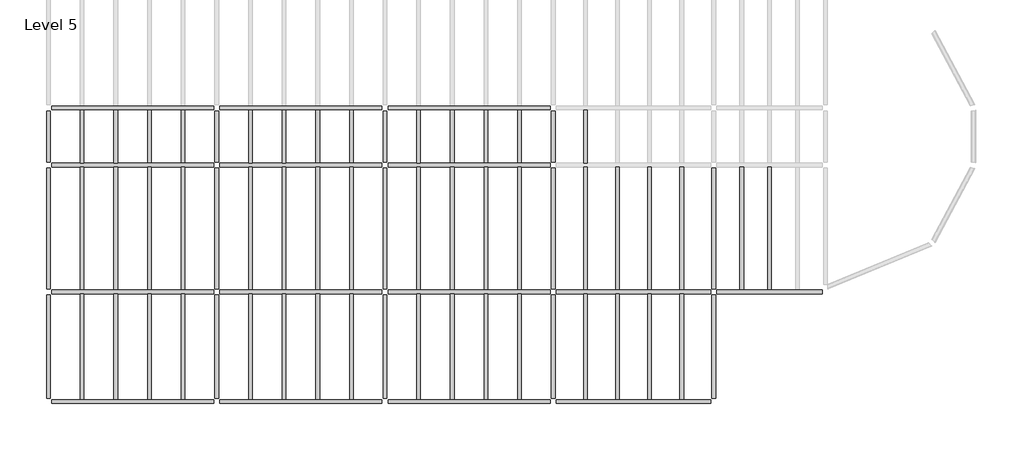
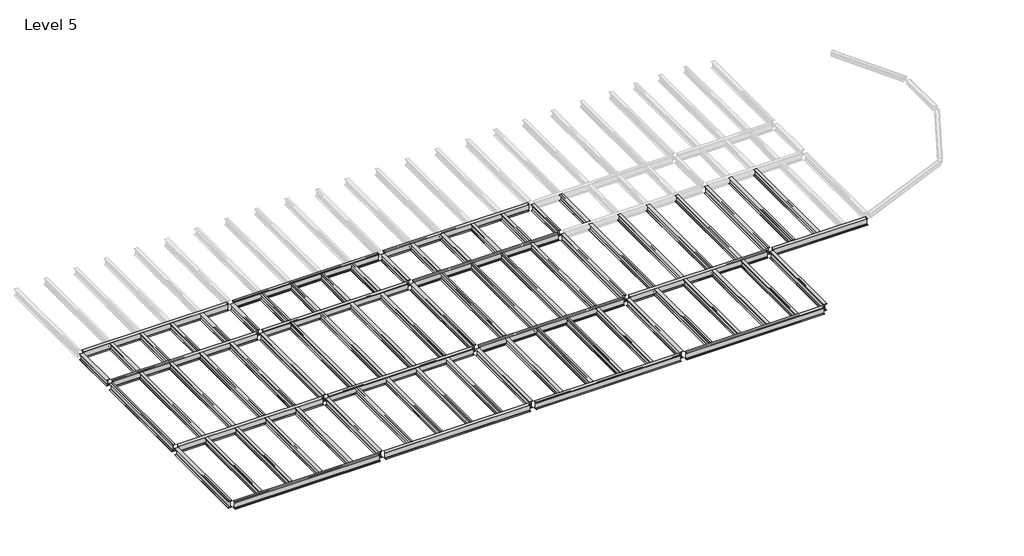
# One storey, part 1 of 2: 76 beams.
"""IFC4 building model written with IfcOpenShell, lengths in millimetres."""

import ifcopenshell
import ifcopenshell.guid

model = None  # the IFC model being written
_history = None  # IfcOwnerHistory: only IFC2X3 demands one
_inside = {}  # id of a spatial element -> (the spatial element, [elements in it])
_under = {}  # id of a project, library or spatial element -> (it, [spatial elements below it])
_declared = {}  # id of a project -> (the project, [libraries it declares])
_typed = {}  # id of a type object -> (the type object, [elements of that type])
_made_of = {}  # id of a material, layer set ... -> (it, [elements and type objects made of it])


def new_model(schema):
    """Start an empty IFC model of exactly this schema.

    Asked for "IFC4X3", IfcOpenShell would pick the latest addendum, in which some entities
    have other attributes; the version numbers below select the first issue.
    IFC2X3 requires an IfcOwnerHistory on every rooted entity: one is made here for all.
    """
    global model, _history
    if schema == "IFC4X3":
        model = ifcopenshell.file(schema_version=(4, 3, 0, 0))
    else:
        model = ifcopenshell.file(schema=schema)
    _inside.clear()
    _under.clear()
    _declared.clear()
    _typed.clear()
    _made_of.clear()
    _history = None
    if model.schema == "IFC2X3":
        org = make("IfcOrganization", Name="unknown")
        user = make(
            "IfcPersonAndOrganization",
            ThePerson=make("IfcPerson", FamilyName="unknown"),
            TheOrganization=org,
        )
        app = make(
            "IfcApplication",
            ApplicationDeveloper=org,
            Version="unknown",
            ApplicationFullName="unknown",
            ApplicationIdentifier="unknown",
        )
        _history = make(
            "IfcOwnerHistory",
            OwningUser=user,
            OwningApplication=app,
            ChangeAction="ADDED",
            CreationDate=0,
        )
    return model


def make(cls, **values):
    """One entity of the class cls with the attributes given. An attribute that is None is left unset."""
    return model.create_entity(
        cls, **{name: value for name, value in values.items() if value is not None}
    )


def rooted(cls, **values):
    """An entity with a GlobalId (a new one), such as an element, a storey or a relation."""
    return make(cls, GlobalId=ifcopenshell.guid.new(), OwnerHistory=_history, **values)


def si_unit(unit_type, name, prefix=None):
    """IfcSIUnit, for example si_unit("LENGTHUNIT", "METRE", prefix="MILLI")."""
    return make("IfcSIUnit", UnitType=unit_type, Prefix=prefix, Name=name)


def assignment(units):
    """IfcUnitAssignment: the units of a project."""
    return None if units is None else make("IfcUnitAssignment", Units=units)


def point(xyz):
    """IfcCartesianPoint."""
    return None if xyz is None else make("IfcCartesianPoint", Coordinates=xyz)


def direction(xyz):
    """IfcDirection."""
    return None if xyz is None else make("IfcDirection", DirectionRatios=xyz)


def frame(location, z_axis=None, x_axis=None):
    """IfcAxis2Placement3D, a coordinate frame: its origin and axes. An axis left out is left unset."""
    return make(
        "IfcAxis2Placement3D",
        Location=point(location),
        Axis=direction(z_axis),
        RefDirection=direction(x_axis),
    )


def frame_2d(location, x_axis=None):
    """IfcAxis2Placement2D, a coordinate frame in the plane: its origin and x axis."""
    return make(
        "IfcAxis2Placement2D", Location=point(location), RefDirection=direction(x_axis)
    )


def origin():
    """The frame at (0, 0, 0) with its axes left unset."""
    return frame((0.0, 0.0, 0.0))


def place(relative_to, where):
    """IfcLocalPlacement: puts the frame where relative to a parent placement (None: the world)."""
    return make(
        "IfcLocalPlacement", PlacementRelTo=relative_to, RelativePlacement=where
    )


def context(
    kind, dimensions, precision=None, world=None, true_north=None, identifier=None
):
    """IfcGeometricRepresentationContext, for example the 3D "Model" context."""
    return make(
        "IfcGeometricRepresentationContext",
        ContextIdentifier=identifier,
        ContextType=kind,
        CoordinateSpaceDimension=dimensions,
        Precision=precision,
        WorldCoordinateSystem=world,
        TrueNorth=true_north,
    )


def project(units=None, contexts=None):
    """IfcProject with its units and contexts."""
    return rooted(
        "IfcProject",
        Name="project",
        RepresentationContexts=contexts,
        UnitsInContext=assignment(units),
    )


def spatial(cls, under=None, at=None, **own):
    """A site, building, storey or space (cls), placed at a placement, below another one or the project."""
    s = rooted(cls, ObjectPlacement=at, **own)
    if under is not None:
        _under.setdefault(under.id(), (under, []))[1].append(s)
    return s


def polyline(points):
    """IfcPolyline through the points."""
    return make("IfcPolyline", Points=[point(p) for p in points])


def circle_curve(where, radius):
    """IfcCircle in the frame where."""
    return make("IfcCircle", Position=where, Radius=radius)


def trimmed(basis, trim1, trim2, sense, master):
    """IfcTrimmedCurve: the piece of a basis curve between two trims."""
    return make(
        "IfcTrimmedCurve",
        BasisCurve=basis,
        Trim1=trim1,
        Trim2=trim2,
        SenseAgreement=sense,
        MasterRepresentation=master,
    )


def segment(curve, same_sense, transition):
    """IfcCompositeCurveSegment."""
    return make(
        "IfcCompositeCurveSegment",
        Transition=transition,
        SameSense=same_sense,
        ParentCurve=curve,
    )


def composite_curve(segments, self_intersect=None):
    """IfcCompositeCurve: segments joined end to end."""
    return make("IfcCompositeCurve", Segments=segments, SelfIntersect=self_intersect)


def outline(outer, holes=None, kind="AREA"):
    """IfcArbitraryClosedProfileDef: a profile drawn as a closed curve; with holes, ...WithVoids."""
    if holes is None:
        return make("IfcArbitraryClosedProfileDef", ProfileType=kind, OuterCurve=outer)
    return make(
        "IfcArbitraryProfileDefWithVoids",
        ProfileType=kind,
        OuterCurve=outer,
        InnerCurves=holes,
    )


def extrude(swept, where, along, depth):
    """IfcExtrudedAreaSolid: the profile swept, set in the frame where, extruded along a direction by depth."""
    return make(
        "IfcExtrudedAreaSolid",
        SweptArea=swept,
        Position=where,
        ExtrudedDirection=direction(along),
        Depth=depth,
    )


def shape(context_of_items, identifier, shape_type, items):
    """IfcShapeRepresentation: the items that make up one representation, for example the "Body"."""
    return make(
        "IfcShapeRepresentation",
        ContextOfItems=context_of_items,
        RepresentationIdentifier=identifier,
        RepresentationType=shape_type,
        Items=items,
    )


def source(mapping_origin, context_of_items, identifier, shape_type, items):
    """IfcRepresentationMap: a shape defined once, which mapped items show again and again."""
    return make(
        "IfcRepresentationMap",
        MappingOrigin=mapping_origin,
        MappedRepresentation=shape(context_of_items, identifier, shape_type, items),
    )


def transform(
    local_origin,
    x_axis=None,
    y_axis=None,
    z_axis=None,
    scale=None,
    scale2=None,
    scale3=None,
    uniform=True,
):
    """IfcCartesianTransformationOperator3D, or its non-uniform kind. x_axis, y_axis, z_axis: its Axis1, 2, 3."""
    if uniform:
        return make(
            "IfcCartesianTransformationOperator3D",
            Axis1=direction(x_axis),
            Axis2=direction(y_axis),
            LocalOrigin=point(local_origin),
            Scale=scale,
            Axis3=direction(z_axis),
        )
    return make(
        "IfcCartesianTransformationOperator3DnonUniform",
        Axis1=direction(x_axis),
        Axis2=direction(y_axis),
        LocalOrigin=point(local_origin),
        Scale=scale,
        Axis3=direction(z_axis),
        Scale2=scale2,
        Scale3=scale3,
    )


def mapped(mapping_source, mapping_target):
    """IfcMappedItem: shows the shape of a source again, moved by a transform."""
    return make(
        "IfcMappedItem", MappingSource=mapping_source, MappingTarget=mapping_target
    )


def made_of(thing, what):
    """Note that an element or type object is made of a material, layer set ...; save() writes the relation."""
    if what is not None:
        _made_of.setdefault(what.id(), (what, []))[1].append(thing)
    return thing


def element(
    cls,
    number,
    at=None,
    inside=None,
    cuts=None,
    type_object=None,
    material=None,
    context=None,
    identifier="Body",
    shape_type=None,
    held_by="IfcProductDefinitionShape",
    body=None,
    shapes=None,
    **own,
):
    """One element of the class cls, such as IfcWall. Its Tag is "e" and its number.

    at: its placement. inside: the storey or other place that contains it. cuts: it is an
    opening in that element (IfcRelVoidsElement). A single representation is given by context,
    identifier, shape_type and body (its items); several are given by shapes. held_by: the class
    of the entity that holds the representations. save() writes the other relations.
    """
    e = rooted(cls, Tag="e%d" % number, ObjectPlacement=at, **own)
    if body is not None:
        shapes = [shape(context, identifier, shape_type, body)]
    if shapes is not None:
        e.Representation = make(held_by, Representations=shapes)
    if inside is not None:
        _inside.setdefault(inside.id(), (inside, []))[1].append(e)
    if cuts is not None:
        rooted(
            "IfcRelVoidsElement", RelatingBuildingElement=cuts, RelatedOpeningElement=e
        )
    if type_object is not None:
        _typed.setdefault(type_object.id(), (type_object, []))[1].append(e)
    return made_of(e, material)


def aggregate(whole, parts):
    """IfcRelAggregates: a whole, such as a stair, and the parts it consists of."""
    return rooted("IfcRelAggregates", RelatingObject=whole, RelatedObjects=parts)


def save(model, path):
    """Write the relations noted so far, then the file.

    IfcRelAggregates (storeys below a building ...), IfcRelContainedInSpatialStructure (elements
    in a storey), IfcRelDefinesByType, IfcRelAssociatesMaterial and IfcRelDeclares: one each for
    every whole, place, type object, material and project.
    """
    for whole, parts in _under.values():
        aggregate(whole, parts)
    for where, things in _inside.values():
        rooted(
            "IfcRelContainedInSpatialStructure",
            RelatedElements=things,
            RelatingStructure=where,
        )
    for kind, things in _typed.values():
        rooted("IfcRelDefinesByType", RelatedObjects=things, RelatingType=kind)
    for what, things in _made_of.values():
        rooted("IfcRelAssociatesMaterial", RelatedObjects=things, RelatingMaterial=what)
    for by, libraries in _declared.values():
        rooted("IfcRelDeclares", RelatingContext=by, RelatedDefinitions=libraries)
    model.write(path)


def w_shapes_w12x26_ac08b433(model_context):
    return source(origin(), model_context, "Body", "SweptSolid", [
        extrude(outline(composite_curve([segment(polyline([(82.423, -145.288), (82.423, -154.94), (-82.423, -154.94), (-82.423, -145.288), (-10.541, -145.288)]), True, "CONTINUOUS"), segment(trimmed(circle_curve(frame_2d((-10.541, -137.668)), 7.62), [point((-10.541, -145.288))], [point((-2.921, -137.668))], True, "CARTESIAN"), True, "CONTINUOUS"), segment(polyline([(-2.921, -137.668), (-2.921, 137.668)]), True, "CONTINUOUS"), segment(trimmed(circle_curve(frame_2d((-10.541, 137.668)), 7.62), [point((-2.921, 137.668))], [point((-10.541, 145.288))], True, "CARTESIAN"), True, "CONTINUOUS"), segment(polyline([(-10.541, 145.288), (-82.423, 145.288), (-82.423, 154.94), (82.423, 154.94), (82.423, 145.288), (10.541, 145.288)]), True, "CONTINUOUS"), segment(trimmed(circle_curve(frame_2d((10.541, 137.668)), 7.62), [point((10.541, 145.288))], [point((2.921, 137.668))], True, "CARTESIAN"), True, "CONTINUOUS"), segment(polyline([(2.921, 137.668), (2.921, -137.668)]), True, "CONTINUOUS"), segment(trimmed(circle_curve(frame_2d((10.541, -137.668)), 7.62), [point((2.921, -137.668))], [point((10.541, -145.288))], True, "CARTESIAN"), True, "CONTINUOUS"), segment(polyline([(10.541, -145.288), (82.423, -145.288)]), True, "CONTINUOUS")], self_intersect=False)), frame((-1157.2875, 0.0, 0.0), z_axis=(1.0, 0.0, 0.0), x_axis=(0.0, 1.0, 0.0)), (0.0, 0.0, 1.0), 2314.575),
    ])


def w_shapes_w12x26_80971791(model_context):
    return source(origin(), model_context, "Body", "SweptSolid", [
        extrude(outline(composite_curve([segment(polyline([(82.423, -145.288), (82.423, -154.94), (-82.423, -154.94), (-82.423, -145.288), (-10.541, -145.288)]), True, "CONTINUOUS"), segment(trimmed(circle_curve(frame_2d((-10.541, -137.668)), 7.62), [point((-10.541, -145.288))], [point((-2.921, -137.668))], True, "CARTESIAN"), True, "CONTINUOUS"), segment(polyline([(-2.921, -137.668), (-2.921, 137.668)]), True, "CONTINUOUS"), segment(trimmed(circle_curve(frame_2d((-10.541, 137.668)), 7.62), [point((-2.921, 137.668))], [point((-10.541, 145.288))], True, "CARTESIAN"), True, "CONTINUOUS"), segment(polyline([(-10.541, 145.288), (-82.423, 145.288), (-82.423, 154.94), (82.423, 154.94), (82.423, 145.288), (10.541, 145.288)]), True, "CONTINUOUS"), segment(trimmed(circle_curve(frame_2d((10.541, 137.668)), 7.62), [point((10.541, 145.288))], [point((2.921, 137.668))], True, "CARTESIAN"), True, "CONTINUOUS"), segment(polyline([(2.921, 137.668), (2.921, -137.668)]), True, "CONTINUOUS"), segment(trimmed(circle_curve(frame_2d((10.541, -137.668)), 7.62), [point((2.921, -137.668))], [point((10.541, -145.288))], True, "CARTESIAN"), True, "CONTINUOUS"), segment(polyline([(10.541, -145.288), (82.423, -145.288)]), True, "CONTINUOUS")], self_intersect=False)), frame((-2389.4415, 0.0, 0.0), z_axis=(1.0, 0.0, 0.0), x_axis=(0.0, 1.0, 0.0)), (0.0, 0.0, 1.0), 4778.883),
    ])


def w_shapes_w12x26_13ab2ca8(model_context):
    return source(origin(), model_context, "Body", "SweptSolid", [
        extrude(outline(composite_curve([segment(polyline([(82.423, -145.288), (82.423, -154.94), (-82.423, -154.94), (-82.423, -145.288), (-10.541, -145.288)]), True, "CONTINUOUS"), segment(trimmed(circle_curve(frame_2d((-10.541, -137.668)), 7.62), [point((-10.541, -145.288))], [point((-2.921, -137.668))], True, "CARTESIAN"), True, "CONTINUOUS"), segment(polyline([(-2.921, -137.668), (-2.921, 137.668)]), True, "CONTINUOUS"), segment(trimmed(circle_curve(frame_2d((-10.541, 137.668)), 7.62), [point((-2.921, 137.668))], [point((-10.541, 145.288))], True, "CARTESIAN"), True, "CONTINUOUS"), segment(polyline([(-10.541, 145.288), (-82.423, 145.288), (-82.423, 154.94), (82.423, 154.94), (82.423, 145.288), (10.541, 145.288)]), True, "CONTINUOUS"), segment(trimmed(circle_curve(frame_2d((10.541, 137.668)), 7.62), [point((10.541, 145.288))], [point((2.921, 137.668))], True, "CARTESIAN"), True, "CONTINUOUS"), segment(polyline([(2.921, 137.668), (2.921, -137.668)]), True, "CONTINUOUS"), segment(trimmed(circle_curve(frame_2d((10.541, -137.668)), 7.62), [point((2.921, -137.668))], [point((10.541, -145.288))], True, "CARTESIAN"), True, "CONTINUOUS"), segment(polyline([(10.541, -145.288), (82.423, -145.288)]), True, "CONTINUOUS")], self_intersect=False)), frame((-2773.6165, 0.0, 0.0), z_axis=(1.0, 0.0, 0.0), x_axis=(0.0, 1.0, 0.0)), (0.0, 0.0, 1.0), 5547.233),
    ])


def w_shapes_w12x26_1a00c8bd(model_context):
    return source(origin(), model_context, "Body", "SweptSolid", [
        extrude(outline(composite_curve([segment(polyline([(82.423, -145.288), (82.423, -154.94), (-82.423, -154.94), (-82.423, -145.288), (-10.541, -145.288)]), True, "CONTINUOUS"), segment(trimmed(circle_curve(frame_2d((-10.541, -137.668)), 7.62), [point((-10.541, -145.288))], [point((-2.921, -137.668))], True, "CARTESIAN"), True, "CONTINUOUS"), segment(polyline([(-2.921, -137.668), (-2.921, 137.668)]), True, "CONTINUOUS"), segment(trimmed(circle_curve(frame_2d((-10.541, 137.668)), 7.62), [point((-2.921, 137.668))], [point((-10.541, 145.288))], True, "CARTESIAN"), True, "CONTINUOUS"), segment(polyline([(-10.541, 145.288), (-82.423, 145.288), (-82.423, 154.94), (82.423, 154.94), (82.423, 145.288), (10.541, 145.288)]), True, "CONTINUOUS"), segment(trimmed(circle_curve(frame_2d((10.541, 137.668)), 7.62), [point((10.541, 145.288))], [point((2.921, 137.668))], True, "CARTESIAN"), True, "CONTINUOUS"), segment(polyline([(2.921, 137.668), (2.921, -137.668)]), True, "CONTINUOUS"), segment(trimmed(circle_curve(frame_2d((10.541, -137.668)), 7.62), [point((2.921, -137.668))], [point((10.541, -145.288))], True, "CARTESIAN"), True, "CONTINUOUS"), segment(polyline([(10.541, -145.288), (82.423, -145.288)]), True, "CONTINUOUS")], self_intersect=False)), frame((-1198.8165, 0.0, 0.0), z_axis=(1.0, 0.0, 0.0), x_axis=(0.0, 1.0, 0.0)), (0.0, 0.0, 1.0), 2397.633),
    ])


def w_shapes_w14x30_2b5df836(model_context):
    return source(origin(), model_context, "Body", "SweptSolid", [
        extrude(outline(composite_curve([segment(polyline([(85.471, -165.481), (85.471, -175.26), (-85.471, -175.26), (-85.471, -165.481), (-13.589, -165.481)]), True, "CONTINUOUS"), segment(trimmed(circle_curve(frame_2d((-13.589, -155.321)), 10.16), [point((-13.589, -165.481))], [point((-3.429, -155.321))], True, "CARTESIAN"), True, "CONTINUOUS"), segment(polyline([(-3.429, -155.321), (-3.429, 155.321)]), True, "CONTINUOUS"), segment(trimmed(circle_curve(frame_2d((-13.589, 155.321)), 10.16), [point((-3.429, 155.321))], [point((-13.589, 165.481))], True, "CARTESIAN"), True, "CONTINUOUS"), segment(polyline([(-13.589, 165.481), (-85.471, 165.481), (-85.471, 175.26), (85.471, 175.26), (85.471, 165.481), (13.589, 165.481)]), True, "CONTINUOUS"), segment(trimmed(circle_curve(frame_2d((13.589, 155.321)), 10.16), [point((13.589, 165.481))], [point((3.429, 155.321))], True, "CARTESIAN"), True, "CONTINUOUS"), segment(polyline([(3.429, 155.321), (3.429, -155.321)]), True, "CONTINUOUS"), segment(trimmed(circle_curve(frame_2d((13.589, -155.321)), 10.16), [point((3.429, -155.321))], [point((13.589, -165.481))], True, "CARTESIAN"), True, "CONTINUOUS"), segment(polyline([(13.589, -165.481), (85.471, -165.481)]), True, "CONTINUOUS")], self_intersect=False)), frame((-3670.3, 0.0, 0.0), z_axis=(1.0, 0.0, 0.0), x_axis=(0.0, 1.0, 0.0)), (0.0, 0.0, 1.0), 7340.6),
    ])


def w_shapes_w14x30_7cdcd298(model_context):
    return source(origin(), model_context, "Body", "SweptSolid", [
        extrude(outline(composite_curve([segment(polyline([(85.471, -165.481), (85.471, -175.26), (-85.471, -175.26), (-85.471, -165.481), (-13.589, -165.481)]), True, "CONTINUOUS"), segment(trimmed(circle_curve(frame_2d((-13.589, -155.321)), 10.16), [point((-13.589, -165.481))], [point((-3.429, -155.321))], True, "CARTESIAN"), True, "CONTINUOUS"), segment(polyline([(-3.429, -155.321), (-3.429, 155.321)]), True, "CONTINUOUS"), segment(trimmed(circle_curve(frame_2d((-13.589, 155.321)), 10.16), [point((-3.429, 155.321))], [point((-13.589, 165.481))], True, "CARTESIAN"), True, "CONTINUOUS"), segment(polyline([(-13.589, 165.481), (-85.471, 165.481), (-85.471, 175.26), (85.471, 175.26), (85.471, 165.481), (13.589, 165.481)]), True, "CONTINUOUS"), segment(trimmed(circle_curve(frame_2d((13.589, 155.321)), 10.16), [point((13.589, 165.481))], [point((3.429, 155.321))], True, "CARTESIAN"), True, "CONTINUOUS"), segment(polyline([(3.429, 155.321), (3.429, -155.321)]), True, "CONTINUOUS"), segment(trimmed(circle_curve(frame_2d((13.589, -155.321)), 10.16), [point((3.429, -155.321))], [point((13.589, -165.481))], True, "CARTESIAN"), True, "CONTINUOUS"), segment(polyline([(13.589, -165.481), (85.471, -165.481)]), True, "CONTINUOUS")], self_intersect=False)), frame((-3494.0875, 0.0, 0.0), z_axis=(1.0, 0.0, 0.0), x_axis=(0.0, 1.0, 0.0)), (0.0, 0.0, 1.0), 6988.175),
    ])


def w_shapes_w14x30_aa676985(model_context):
    return source(origin(), model_context, "Body", "SweptSolid", [
        extrude(outline(composite_curve([segment(polyline([(85.471, -165.481), (85.471, -175.26), (-85.471, -175.26), (-85.471, -165.481), (-13.589, -165.481)]), True, "CONTINUOUS"), segment(trimmed(circle_curve(frame_2d((-13.589, -155.321)), 10.16), [point((-13.589, -165.481))], [point((-3.429, -155.321))], True, "CARTESIAN"), True, "CONTINUOUS"), segment(polyline([(-3.429, -155.321), (-3.429, 155.321)]), True, "CONTINUOUS"), segment(trimmed(circle_curve(frame_2d((-13.589, 155.321)), 10.16), [point((-3.429, 155.321))], [point((-13.589, 165.481))], True, "CARTESIAN"), True, "CONTINUOUS"), segment(polyline([(-13.589, 165.481), (-85.471, 165.481), (-85.471, 175.26), (85.471, 175.26), (85.471, 165.481), (13.589, 165.481)]), True, "CONTINUOUS"), segment(trimmed(circle_curve(frame_2d((13.589, 155.321)), 10.16), [point((13.589, 165.481))], [point((3.429, 155.321))], True, "CARTESIAN"), True, "CONTINUOUS"), segment(polyline([(3.429, 155.321), (3.429, -155.321)]), True, "CONTINUOUS"), segment(trimmed(circle_curve(frame_2d((13.589, -155.321)), 10.16), [point((3.429, -155.321))], [point((13.589, -165.481))], True, "CARTESIAN"), True, "CONTINUOUS"), segment(polyline([(13.589, -165.481), (85.471, -165.481)]), True, "CONTINUOUS")], self_intersect=False)), frame((-2347.9125, 0.0, 0.0), z_axis=(1.0, 0.0, 0.0), x_axis=(0.0, 1.0, 0.0)), (0.0, 0.0, 1.0), 4695.825),
    ])


def w_shapes_w14x30_0fa609c7(model_context):
    return source(origin(), model_context, "Body", "SweptSolid", [
        extrude(outline(composite_curve([segment(polyline([(85.471, -165.481), (85.471, -175.26), (-85.471, -175.26), (-85.471, -165.481), (-13.589, -165.481)]), True, "CONTINUOUS"), segment(trimmed(circle_curve(frame_2d((-13.589, -155.321)), 10.16), [point((-13.589, -165.481))], [point((-3.429, -155.321))], True, "CARTESIAN"), True, "CONTINUOUS"), segment(polyline([(-3.429, -155.321), (-3.429, 155.321)]), True, "CONTINUOUS"), segment(trimmed(circle_curve(frame_2d((-13.589, 155.321)), 10.16), [point((-3.429, 155.321))], [point((-13.589, 165.481))], True, "CARTESIAN"), True, "CONTINUOUS"), segment(polyline([(-13.589, 165.481), (-85.471, 165.481), (-85.471, 175.26), (85.471, 175.26), (85.471, 165.481), (13.589, 165.481)]), True, "CONTINUOUS"), segment(trimmed(circle_curve(frame_2d((13.589, 155.321)), 10.16), [point((13.589, 165.481))], [point((3.429, 155.321))], True, "CARTESIAN"), True, "CONTINUOUS"), segment(polyline([(3.429, 155.321), (3.429, -155.321)]), True, "CONTINUOUS"), segment(trimmed(circle_curve(frame_2d((13.589, -155.321)), 10.16), [point((3.429, -155.321))], [point((13.589, -165.481))], True, "CARTESIAN"), True, "CONTINUOUS"), segment(polyline([(13.589, -165.481), (85.471, -165.481)]), True, "CONTINUOUS")], self_intersect=False)), frame((-2386.80625, 0.0, 0.0), z_axis=(1.0, 0.0, 0.0), x_axis=(0.0, 1.0, 0.0)), (0.0, 0.0, 1.0), 4773.6125),
    ])


def w_shapes_w14x30_0dffa004(model_context):
    return source(origin(), model_context, "Body", "SweptSolid", [
        extrude(outline(composite_curve([segment(polyline([(85.471, -165.481), (85.471, -175.26), (-85.471, -175.26), (-85.471, -165.481), (-13.589, -165.481)]), True, "CONTINUOUS"), segment(trimmed(circle_curve(frame_2d((-13.589, -155.321)), 10.16), [point((-13.589, -165.481))], [point((-3.429, -155.321))], True, "CARTESIAN"), True, "CONTINUOUS"), segment(polyline([(-3.429, -155.321), (-3.429, 155.321)]), True, "CONTINUOUS"), segment(trimmed(circle_curve(frame_2d((-13.589, 155.321)), 10.16), [point((-3.429, 155.321))], [point((-13.589, 165.481))], True, "CARTESIAN"), True, "CONTINUOUS"), segment(polyline([(-13.589, 165.481), (-85.471, 165.481), (-85.471, 175.26), (85.471, 175.26), (85.471, 165.481), (13.589, 165.481)]), True, "CONTINUOUS"), segment(trimmed(circle_curve(frame_2d((13.589, 155.321)), 10.16), [point((13.589, 165.481))], [point((3.429, 155.321))], True, "CARTESIAN"), True, "CONTINUOUS"), segment(polyline([(3.429, 155.321), (3.429, -155.321)]), True, "CONTINUOUS"), segment(trimmed(circle_curve(frame_2d((13.589, -155.321)), 10.16), [point((3.429, -155.321))], [point((13.589, -165.481))], True, "CARTESIAN"), True, "CONTINUOUS"), segment(polyline([(13.589, -165.481), (85.471, -165.481)]), True, "CONTINUOUS")], self_intersect=False)), frame((-2732.0875, 0.0, 0.0), z_axis=(1.0, 0.0, 0.0), x_axis=(0.0, 1.0, 0.0)), (0.0, 0.0, 1.0), 5464.175),
    ])


model = new_model("IFC4")

# Units and contexts
model_context = context("Model", 3, world=origin())
ifc_project = project(units=[si_unit("LENGTHUNIT", "METRE", prefix="MILLI")], contexts=[model_context])

# Site, building, storey
site = spatial("IfcSite", under=ifc_project)
building = spatial("IfcBuilding", under=site)
storey = spatial("IfcBuildingStorey", under=building, Name="Level 5", Elevation=14478.0)

# Beams
placement = place(None, origin())
w_shapes_w12x26_shape = w_shapes_w12x26_ac08b433(model_context)
element("IfcBeam", 1, ObjectType="W Shapes : W12X26", at=placement, inside=storey, context=model_context, shape_type="MappedRepresentation", body=[
    mapped(w_shapes_w12x26_shape, transform((-17242.6535279, -2505.8101681, 14323.06), x_axis=(0.0, -1.0, 0.0), y_axis=(1.0, 0.0, 0.0), z_axis=(0.0, 0.0, 1.0))),
])
element("IfcBeam", 2, ObjectType="W Shapes : W12X26", at=placement, inside=storey, context=model_context, shape_type="MappedRepresentation", body=[
    mapped(w_shapes_w12x26_shape, transform((-9622.6535279, -2505.8101681, 14323.06), x_axis=(0.0, -1.0, 0.0), y_axis=(1.0, 0.0, 0.0), z_axis=(0.0, 0.0, 1.0))),
])
element("IfcBeam", 3, ObjectType="W Shapes : W12X26", at=placement, inside=storey, context=model_context, shape_type="MappedRepresentation", body=[
    mapped(w_shapes_w12x26_shape, transform((-2002.6535279, -2505.8101681, 14323.06), x_axis=(0.0, -1.0, 0.0), y_axis=(1.0, 0.0, 0.0), z_axis=(0.0, 0.0, 1.0))),
])
element("IfcBeam", 4, ObjectType="W Shapes : W12X26", at=placement, inside=storey, context=model_context, shape_type="MappedRepresentation", body=[
    mapped(w_shapes_w12x26_shape, transform((5617.3464721, -2505.8101681, 14323.06), x_axis=(0.0, -1.0, 0.0), y_axis=(1.0, 0.0, 0.0), z_axis=(0.0, 0.0, 1.0))),
])
w_shapes_w12x26_2_shape = w_shapes_w12x26_80971791(model_context)
element("IfcBeam", 5, ObjectType="W Shapes : W12X26", at=placement, inside=storey, context=model_context, shape_type="MappedRepresentation", body=[
    mapped(w_shapes_w12x26_2_shape, transform((-11146.6535279, -12033.9851681, 14323.06), x_axis=(0.0, -1.0, 0.0), y_axis=(1.0, 0.0, 0.0), z_axis=(0.0, 0.0, 1.0))),
])
element("IfcBeam", 6, ObjectType="W Shapes : W12X26", at=placement, inside=storey, context=model_context, shape_type="MappedRepresentation", body=[
    mapped(w_shapes_w12x26_2_shape, transform((-12670.6535279, -12033.9851681, 14323.06), x_axis=(0.0, -1.0, 0.0), y_axis=(1.0, 0.0, 0.0), z_axis=(0.0, 0.0, 1.0))),
])
element("IfcBeam", 7, ObjectType="W Shapes : W12X26", at=placement, inside=storey, context=model_context, shape_type="MappedRepresentation", body=[
    mapped(w_shapes_w12x26_2_shape, transform((-14194.6535279, -12033.9851681, 14323.06), x_axis=(0.0, -1.0, 0.0), y_axis=(1.0, 0.0, 0.0), z_axis=(0.0, 0.0, 1.0))),
])
element("IfcBeam", 8, ObjectType="W Shapes : W12X26", at=placement, inside=storey, context=model_context, shape_type="MappedRepresentation", body=[
    mapped(w_shapes_w12x26_2_shape, transform((-15718.6535279, -12033.9851681, 14323.06), x_axis=(0.0, -1.0, 0.0), y_axis=(1.0, 0.0, 0.0), z_axis=(0.0, 0.0, 1.0))),
])
element("IfcBeam", 9, ObjectType="W Shapes : W12X26", at=placement, inside=storey, context=model_context, shape_type="MappedRepresentation", body=[
    mapped(w_shapes_w12x26_2_shape, transform((-3526.6535279, -12033.9851681, 14323.06), x_axis=(0.0, -1.0, 0.0), y_axis=(1.0, 0.0, 0.0), z_axis=(0.0, 0.0, 1.0))),
])
element("IfcBeam", 10, ObjectType="W Shapes : W12X26", at=placement, inside=storey, context=model_context, shape_type="MappedRepresentation", body=[
    mapped(w_shapes_w12x26_2_shape, transform((-5050.6535279, -12033.9851681, 14323.06), x_axis=(0.0, -1.0, 0.0), y_axis=(1.0, 0.0, 0.0), z_axis=(0.0, 0.0, 1.0))),
])
element("IfcBeam", 11, ObjectType="W Shapes : W12X26", at=placement, inside=storey, context=model_context, shape_type="MappedRepresentation", body=[
    mapped(w_shapes_w12x26_2_shape, transform((-6574.6535279, -12033.9851681, 14323.06), x_axis=(0.0, -1.0, 0.0), y_axis=(1.0, 0.0, 0.0), z_axis=(0.0, 0.0, 1.0))),
])
element("IfcBeam", 12, ObjectType="W Shapes : W12X26", at=placement, inside=storey, context=model_context, shape_type="MappedRepresentation", body=[
    mapped(w_shapes_w12x26_2_shape, transform((-8098.6535279, -12033.9851681, 14323.06), x_axis=(0.0, -1.0, 0.0), y_axis=(1.0, 0.0, 0.0), z_axis=(0.0, 0.0, 1.0))),
])
element("IfcBeam", 13, ObjectType="W Shapes : W12X26", at=placement, inside=storey, context=model_context, shape_type="MappedRepresentation", body=[
    mapped(w_shapes_w12x26_2_shape, transform((-478.6535279, -12033.9851681, 14323.06), x_axis=(0.0, 1.0, 0.0), y_axis=(-1.0, 0.0, 0.0), z_axis=(0.0, 0.0, 1.0))),
])
element("IfcBeam", 14, ObjectType="W Shapes : W12X26", at=placement, inside=storey, context=model_context, shape_type="MappedRepresentation", body=[
    mapped(w_shapes_w12x26_2_shape, transform((1045.3464721, -12033.9851681, 14323.06), x_axis=(0.0, 1.0, 0.0), y_axis=(-1.0, 0.0, 0.0), z_axis=(0.0, 0.0, 1.0))),
])
element("IfcBeam", 15, ObjectType="W Shapes : W12X26", at=placement, inside=storey, context=model_context, shape_type="MappedRepresentation", body=[
    mapped(w_shapes_w12x26_2_shape, transform((2569.3464721, -12033.9851681, 14323.06), x_axis=(0.0, 1.0, 0.0), y_axis=(-1.0, 0.0, 0.0), z_axis=(0.0, 0.0, 1.0))),
])
element("IfcBeam", 16, ObjectType="W Shapes : W12X26", at=placement, inside=storey, context=model_context, shape_type="MappedRepresentation", body=[
    mapped(w_shapes_w12x26_2_shape, transform((4093.3464721, -12033.9851681, 14323.06), x_axis=(0.0, 1.0, 0.0), y_axis=(-1.0, 0.0, 0.0), z_axis=(0.0, 0.0, 1.0))),
])
element("IfcBeam", 17, ObjectType="W Shapes : W12X26", at=placement, inside=storey, context=model_context, shape_type="MappedRepresentation", body=[
    mapped(w_shapes_w12x26_2_shape, transform((11431.4064721, -12033.9851681, 14323.06), x_axis=(0.0, -1.0, 0.0), y_axis=(1.0, 0.0, 0.0), z_axis=(0.0, 0.0, 1.0))),
])
element("IfcBeam", 18, ObjectType="W Shapes : W12X26", at=placement, inside=storey, context=model_context, shape_type="MappedRepresentation", body=[
    mapped(w_shapes_w12x26_2_shape, transform((9977.8914721, -12033.9851681, 14323.06), x_axis=(0.0, -1.0, 0.0), y_axis=(1.0, 0.0, 0.0), z_axis=(0.0, 0.0, 1.0))),
])
element("IfcBeam", 19, ObjectType="W Shapes : W12X26", at=placement, inside=storey, context=model_context, shape_type="MappedRepresentation", body=[
    mapped(w_shapes_w12x26_2_shape, transform((8524.3764721, -12033.9851681, 14323.06), x_axis=(0.0, -1.0, 0.0), y_axis=(1.0, 0.0, 0.0), z_axis=(0.0, 0.0, 1.0))),
])
element("IfcBeam", 20, ObjectType="W Shapes : W12X26", at=placement, inside=storey, context=model_context, shape_type="MappedRepresentation", body=[
    mapped(w_shapes_w12x26_2_shape, transform((7070.8614721, -12033.9851681, 14323.06), x_axis=(0.0, -1.0, 0.0), y_axis=(1.0, 0.0, 0.0), z_axis=(0.0, 0.0, 1.0))),
])
w_shapes_w12x26_3_shape = w_shapes_w12x26_13ab2ca8(model_context)
element("IfcBeam", 21, ObjectType="W Shapes : W12X26", at=placement, inside=storey, context=model_context, shape_type="MappedRepresentation", body=[
    mapped(w_shapes_w12x26_3_shape, transform((7070.8614721, -6674.5851681, 14323.06), x_axis=(0.0, 1.0, 0.0), y_axis=(-1.0, 0.0, 0.0), z_axis=(0.0, 0.0, 1.0))),
])
element("IfcBeam", 22, ObjectType="W Shapes : W12X26", at=placement, inside=storey, context=model_context, shape_type="MappedRepresentation", body=[
    mapped(w_shapes_w12x26_3_shape, transform((8524.3764721, -6674.5851681, 14323.06), x_axis=(0.0, 1.0, 0.0), y_axis=(-1.0, 0.0, 0.0), z_axis=(0.0, 0.0, 1.0))),
])
element("IfcBeam", 23, ObjectType="W Shapes : W12X26", at=placement, inside=storey, context=model_context, shape_type="MappedRepresentation", body=[
    mapped(w_shapes_w12x26_3_shape, transform((9977.8914721, -6674.5851681, 14323.06), x_axis=(0.0, 1.0, 0.0), y_axis=(-1.0, 0.0, 0.0), z_axis=(0.0, 0.0, 1.0))),
])
element("IfcBeam", 24, ObjectType="W Shapes : W12X26", at=placement, inside=storey, context=model_context, shape_type="MappedRepresentation", body=[
    mapped(w_shapes_w12x26_3_shape, transform((11431.4064721, -6674.5851681, 14323.06), x_axis=(0.0, 1.0, 0.0), y_axis=(-1.0, 0.0, 0.0), z_axis=(0.0, 0.0, 1.0))),
])
element("IfcBeam", 25, ObjectType="W Shapes : W12X26", at=placement, inside=storey, context=model_context, shape_type="MappedRepresentation", body=[
    mapped(w_shapes_w12x26_3_shape, transform((4093.3464721, -6674.5851681, 14323.06), x_axis=(0.0, -1.0, 0.0), y_axis=(1.0, 0.0, 0.0), z_axis=(0.0, 0.0, 1.0))),
])
element("IfcBeam", 26, ObjectType="W Shapes : W12X26", at=placement, inside=storey, context=model_context, shape_type="MappedRepresentation", body=[
    mapped(w_shapes_w12x26_3_shape, transform((2569.3464721, -6674.5851681, 14323.06), x_axis=(0.0, -1.0, 0.0), y_axis=(1.0, 0.0, 0.0), z_axis=(0.0, 0.0, 1.0))),
])
element("IfcBeam", 27, ObjectType="W Shapes : W12X26", at=placement, inside=storey, context=model_context, shape_type="MappedRepresentation", body=[
    mapped(w_shapes_w12x26_3_shape, transform((1045.3464721, -6674.5851681, 14323.06), x_axis=(0.0, -1.0, 0.0), y_axis=(1.0, 0.0, 0.0), z_axis=(0.0, 0.0, 1.0))),
])
element("IfcBeam", 28, ObjectType="W Shapes : W12X26", at=placement, inside=storey, context=model_context, shape_type="MappedRepresentation", body=[
    mapped(w_shapes_w12x26_3_shape, transform((-478.6535279, -6674.5851681, 14323.06), x_axis=(0.0, -1.0, 0.0), y_axis=(1.0, 0.0, 0.0), z_axis=(0.0, 0.0, 1.0))),
])
element("IfcBeam", 29, ObjectType="W Shapes : W12X26", at=placement, inside=storey, context=model_context, shape_type="MappedRepresentation", body=[
    mapped(w_shapes_w12x26_3_shape, transform((-8098.6535279, -6674.5851681, 14323.06), x_axis=(0.0, 1.0, 0.0), y_axis=(-1.0, 0.0, 0.0), z_axis=(0.0, 0.0, 1.0))),
])
element("IfcBeam", 30, ObjectType="W Shapes : W12X26", at=placement, inside=storey, context=model_context, shape_type="MappedRepresentation", body=[
    mapped(w_shapes_w12x26_3_shape, transform((-6574.6535279, -6674.5851681, 14323.06), x_axis=(0.0, 1.0, 0.0), y_axis=(-1.0, 0.0, 0.0), z_axis=(0.0, 0.0, 1.0))),
])
element("IfcBeam", 31, ObjectType="W Shapes : W12X26", at=placement, inside=storey, context=model_context, shape_type="MappedRepresentation", body=[
    mapped(w_shapes_w12x26_3_shape, transform((-5050.6535279, -6674.5851681, 14323.06), x_axis=(0.0, 1.0, 0.0), y_axis=(-1.0, 0.0, 0.0), z_axis=(0.0, 0.0, 1.0))),
])
element("IfcBeam", 32, ObjectType="W Shapes : W12X26", at=placement, inside=storey, context=model_context, shape_type="MappedRepresentation", body=[
    mapped(w_shapes_w12x26_3_shape, transform((-3526.6535279, -6674.5851681, 14323.06), x_axis=(0.0, 1.0, 0.0), y_axis=(-1.0, 0.0, 0.0), z_axis=(0.0, 0.0, 1.0))),
])
element("IfcBeam", 33, ObjectType="W Shapes : W12X26", at=placement, inside=storey, context=model_context, shape_type="MappedRepresentation", body=[
    mapped(w_shapes_w12x26_3_shape, transform((-11146.6535279, -6674.5851681, 14323.06), x_axis=(0.0, -1.0, 0.0), y_axis=(1.0, 0.0, 0.0), z_axis=(0.0, 0.0, 1.0))),
])
element("IfcBeam", 34, ObjectType="W Shapes : W12X26", at=placement, inside=storey, context=model_context, shape_type="MappedRepresentation", body=[
    mapped(w_shapes_w12x26_3_shape, transform((-12670.6535279, -6674.5851681, 14323.06), x_axis=(0.0, -1.0, 0.0), y_axis=(1.0, 0.0, 0.0), z_axis=(0.0, 0.0, 1.0))),
])
element("IfcBeam", 35, ObjectType="W Shapes : W12X26", at=placement, inside=storey, context=model_context, shape_type="MappedRepresentation", body=[
    mapped(w_shapes_w12x26_3_shape, transform((-14194.6535279, -6674.5851681, 14323.06), x_axis=(0.0, -1.0, 0.0), y_axis=(1.0, 0.0, 0.0), z_axis=(0.0, 0.0, 1.0))),
])
element("IfcBeam", 36, ObjectType="W Shapes : W12X26", at=placement, inside=storey, context=model_context, shape_type="MappedRepresentation", body=[
    mapped(w_shapes_w12x26_3_shape, transform((-15718.6535279, -6674.5851681, 14323.06), x_axis=(0.0, -1.0, 0.0), y_axis=(1.0, 0.0, 0.0), z_axis=(0.0, 0.0, 1.0))),
])
element("IfcBeam", 37, ObjectType="W Shapes : W12X26", at=placement, inside=storey, context=model_context, shape_type="MappedRepresentation", body=[
    mapped(w_shapes_w12x26_3_shape, transform((15411.4277221, -6674.5851681, 14323.06), x_axis=(0.0, 1.0, 0.0), y_axis=(-1.0, 0.0, 0.0), z_axis=(0.0, 0.0, 1.0))),
])
element("IfcBeam", 38, ObjectType="W Shapes : W12X26", at=placement, inside=storey, context=model_context, shape_type="MappedRepresentation", body=[
    mapped(w_shapes_w12x26_3_shape, transform((14148.1745971, -6674.5851681, 14323.06), x_axis=(0.0, 1.0, 0.0), y_axis=(-1.0, 0.0, 0.0), z_axis=(0.0, 0.0, 1.0))),
])
w_shapes_w12x26_4_shape = w_shapes_w12x26_1a00c8bd(model_context)
element("IfcBeam", 39, ObjectType="W Shapes : W12X26", at=placement, inside=storey, context=model_context, shape_type="MappedRepresentation", body=[
    mapped(w_shapes_w12x26_4_shape, transform((-11146.6535279, -2505.8101681, 14323.06), x_axis=(0.0, -1.0, 0.0), y_axis=(1.0, 0.0, 0.0), z_axis=(0.0, 0.0, 1.0))),
])
element("IfcBeam", 40, ObjectType="W Shapes : W12X26", at=placement, inside=storey, context=model_context, shape_type="MappedRepresentation", body=[
    mapped(w_shapes_w12x26_4_shape, transform((-12670.6535279, -2505.8101681, 14323.06), x_axis=(0.0, -1.0, 0.0), y_axis=(1.0, 0.0, 0.0), z_axis=(0.0, 0.0, 1.0))),
])
element("IfcBeam", 41, ObjectType="W Shapes : W12X26", at=placement, inside=storey, context=model_context, shape_type="MappedRepresentation", body=[
    mapped(w_shapes_w12x26_4_shape, transform((-14194.6535279, -2505.8101681, 14323.06), x_axis=(0.0, -1.0, 0.0), y_axis=(1.0, 0.0, 0.0), z_axis=(0.0, 0.0, 1.0))),
])
element("IfcBeam", 42, ObjectType="W Shapes : W12X26", at=placement, inside=storey, context=model_context, shape_type="MappedRepresentation", body=[
    mapped(w_shapes_w12x26_4_shape, transform((-15718.6535279, -2505.8101681, 14323.06), x_axis=(0.0, -1.0, 0.0), y_axis=(1.0, 0.0, 0.0), z_axis=(0.0, 0.0, 1.0))),
])
element("IfcBeam", 43, ObjectType="W Shapes : W12X26", at=placement, inside=storey, context=model_context, shape_type="MappedRepresentation", body=[
    mapped(w_shapes_w12x26_4_shape, transform((-3526.6535279, -2505.8101681, 14323.06), x_axis=(0.0, -1.0, 0.0), y_axis=(1.0, 0.0, 0.0), z_axis=(0.0, 0.0, 1.0))),
])
element("IfcBeam", 44, ObjectType="W Shapes : W12X26", at=placement, inside=storey, context=model_context, shape_type="MappedRepresentation", body=[
    mapped(w_shapes_w12x26_4_shape, transform((-5050.6535279, -2505.8101681, 14323.06), x_axis=(0.0, -1.0, 0.0), y_axis=(1.0, 0.0, 0.0), z_axis=(0.0, 0.0, 1.0))),
])
element("IfcBeam", 45, ObjectType="W Shapes : W12X26", at=placement, inside=storey, context=model_context, shape_type="MappedRepresentation", body=[
    mapped(w_shapes_w12x26_4_shape, transform((-6574.6535279, -2505.8101681, 14323.06), x_axis=(0.0, -1.0, 0.0), y_axis=(1.0, 0.0, 0.0), z_axis=(0.0, 0.0, 1.0))),
])
element("IfcBeam", 46, ObjectType="W Shapes : W12X26", at=placement, inside=storey, context=model_context, shape_type="MappedRepresentation", body=[
    mapped(w_shapes_w12x26_4_shape, transform((-8098.6535279, -2505.8101681, 14323.06), x_axis=(0.0, -1.0, 0.0), y_axis=(1.0, 0.0, 0.0), z_axis=(0.0, 0.0, 1.0))),
])
element("IfcBeam", 47, ObjectType="W Shapes : W12X26", at=placement, inside=storey, context=model_context, shape_type="MappedRepresentation", body=[
    mapped(w_shapes_w12x26_4_shape, transform((4093.3464721, -2505.8101681, 14323.06), x_axis=(0.0, -1.0, 0.0), y_axis=(1.0, 0.0, 0.0), z_axis=(0.0, 0.0, 1.0))),
])
element("IfcBeam", 48, ObjectType="W Shapes : W12X26", at=placement, inside=storey, context=model_context, shape_type="MappedRepresentation", body=[
    mapped(w_shapes_w12x26_4_shape, transform((2569.3464721, -2505.8101681, 14323.06), x_axis=(0.0, -1.0, 0.0), y_axis=(1.0, 0.0, 0.0), z_axis=(0.0, 0.0, 1.0))),
])
element("IfcBeam", 49, ObjectType="W Shapes : W12X26", at=placement, inside=storey, context=model_context, shape_type="MappedRepresentation", body=[
    mapped(w_shapes_w12x26_4_shape, transform((1045.3464721, -2505.8101681, 14323.06), x_axis=(0.0, -1.0, 0.0), y_axis=(1.0, 0.0, 0.0), z_axis=(0.0, 0.0, 1.0))),
])
element("IfcBeam", 50, ObjectType="W Shapes : W12X26", at=placement, inside=storey, context=model_context, shape_type="MappedRepresentation", body=[
    mapped(w_shapes_w12x26_4_shape, transform((-478.6535279, -2505.8101681, 14323.06), x_axis=(0.0, -1.0, 0.0), y_axis=(1.0, 0.0, 0.0), z_axis=(0.0, 0.0, 1.0))),
])
element("IfcBeam", 51, ObjectType="W Shapes : W12X26", at=placement, inside=storey, context=model_context, shape_type="MappedRepresentation", body=[
    mapped(w_shapes_w12x26_4_shape, transform((7070.8614721, -2505.8101681, 14323.06), x_axis=(0.0, -1.0, 0.0), y_axis=(1.0, 0.0, 0.0), z_axis=(0.0, 0.0, 1.0))),
])
w_shapes_w14x30_shape = w_shapes_w14x30_2b5df836(model_context)
element("IfcBeam", 52, ObjectType="W Shapes : W14X30", at=placement, inside=storey, context=model_context, shape_type="MappedRepresentation", body=[
    mapped(w_shapes_w14x30_shape, transform((1807.3464721, -1208.8226681, 14302.74), x_axis=(-1.0, 0.0, 0.0), y_axis=(0.0, -1.0, 0.0), z_axis=(0.0, 0.0, 1.0))),
])
element("IfcBeam", 53, ObjectType="W Shapes : W14X30", at=placement, inside=storey, context=model_context, shape_type="MappedRepresentation", body=[
    mapped(w_shapes_w14x30_shape, transform((-5812.6535279, -1208.8226681, 14302.74), x_axis=(-1.0, 0.0, 0.0), y_axis=(0.0, -1.0, 0.0), z_axis=(0.0, 0.0, 1.0))),
])
element("IfcBeam", 54, ObjectType="W Shapes : W14X30", at=placement, inside=storey, context=model_context, shape_type="MappedRepresentation", body=[
    mapped(w_shapes_w14x30_shape, transform((-13432.6535279, -1208.8226681, 14302.74), x_axis=(-1.0, 0.0, 0.0), y_axis=(0.0, -1.0, 0.0), z_axis=(0.0, 0.0, 1.0))),
])
element("IfcBeam", 55, ObjectType="W Shapes : W14X30", at=placement, inside=storey, context=model_context, shape_type="MappedRepresentation", body=[
    mapped(w_shapes_w14x30_shape, transform((-13432.6535279, -3802.7976681, 14302.74), x_axis=(1.0, 0.0, 0.0), y_axis=(0.0, 1.0, 0.0), z_axis=(0.0, 0.0, 1.0))),
])
element("IfcBeam", 56, ObjectType="W Shapes : W14X30", at=placement, inside=storey, context=model_context, shape_type="MappedRepresentation", body=[
    mapped(w_shapes_w14x30_shape, transform((-5812.6535279, -3802.7976681, 14302.74), x_axis=(1.0, 0.0, 0.0), y_axis=(0.0, 1.0, 0.0), z_axis=(0.0, 0.0, 1.0))),
])
element("IfcBeam", 57, ObjectType="W Shapes : W14X30", at=placement, inside=storey, context=model_context, shape_type="MappedRepresentation", body=[
    mapped(w_shapes_w14x30_shape, transform((1807.3464721, -3802.7976681, 14302.74), x_axis=(1.0, 0.0, 0.0), y_axis=(0.0, 1.0, 0.0), z_axis=(0.0, 0.0, 1.0))),
])
element("IfcBeam", 58, ObjectType="W Shapes : W14X30", at=placement, inside=storey, context=model_context, shape_type="MappedRepresentation", body=[
    mapped(w_shapes_w14x30_shape, transform((1807.3464721, -9546.3726681, 14302.74), x_axis=(-1.0, 0.0, 0.0), y_axis=(0.0, -1.0, 0.0), z_axis=(0.0, 0.0, 1.0))),
])
element("IfcBeam", 59, ObjectType="W Shapes : W14X30", at=placement, inside=storey, context=model_context, shape_type="MappedRepresentation", body=[
    mapped(w_shapes_w14x30_shape, transform((-5812.6535279, -9546.3726681, 14302.74), x_axis=(-1.0, 0.0, 0.0), y_axis=(0.0, -1.0, 0.0), z_axis=(0.0, 0.0, 1.0))),
])
element("IfcBeam", 60, ObjectType="W Shapes : W14X30", at=placement, inside=storey, context=model_context, shape_type="MappedRepresentation", body=[
    mapped(w_shapes_w14x30_shape, transform((-13432.6535279, -9546.3726681, 14302.74), x_axis=(-1.0, 0.0, 0.0), y_axis=(0.0, -1.0, 0.0), z_axis=(0.0, 0.0, 1.0))),
])
element("IfcBeam", 61, ObjectType="W Shapes : W14X30", at=placement, inside=storey, context=model_context, shape_type="MappedRepresentation", body=[
    mapped(w_shapes_w14x30_shape, transform((-13432.6535279, -14521.5976681, 14302.74), x_axis=(1.0, 0.0, 0.0), y_axis=(0.0, 1.0, 0.0), z_axis=(0.0, 0.0, 1.0))),
])
element("IfcBeam", 62, ObjectType="W Shapes : W14X30", at=placement, inside=storey, context=model_context, shape_type="MappedRepresentation", body=[
    mapped(w_shapes_w14x30_shape, transform((-5812.6535279, -14521.5976681, 14302.74), x_axis=(1.0, 0.0, 0.0), y_axis=(0.0, 1.0, 0.0), z_axis=(0.0, 0.0, 1.0))),
])
element("IfcBeam", 63, ObjectType="W Shapes : W14X30", at=placement, inside=storey, context=model_context, shape_type="MappedRepresentation", body=[
    mapped(w_shapes_w14x30_shape, transform((1807.3464721, -14521.5976681, 14302.74), x_axis=(1.0, 0.0, 0.0), y_axis=(0.0, 1.0, 0.0), z_axis=(0.0, 0.0, 1.0))),
])
w_shapes_w14x30_2_shape = w_shapes_w14x30_7cdcd298(model_context)
element("IfcBeam", 64, ObjectType="W Shapes : W14X30", at=placement, inside=storey, context=model_context, shape_type="MappedRepresentation", body=[
    mapped(w_shapes_w14x30_2_shape, transform((9251.1339721, -9546.3726681, 14302.74), x_axis=(-1.0, 0.0, 0.0), y_axis=(0.0, -1.0, 0.0), z_axis=(0.0, 0.0, 1.0))),
])
element("IfcBeam", 65, ObjectType="W Shapes : W14X30", at=placement, inside=storey, context=model_context, shape_type="MappedRepresentation", body=[
    mapped(w_shapes_w14x30_2_shape, transform((9251.1339721, -14521.5976681, 14302.74), x_axis=(1.0, 0.0, 0.0), y_axis=(0.0, 1.0, 0.0), z_axis=(0.0, 0.0, 1.0))),
])
w_shapes_w14x30_3_shape = w_shapes_w14x30_aa676985(model_context)
element("IfcBeam", 66, ObjectType="W Shapes : W14X30", at=placement, inside=storey, context=model_context, shape_type="MappedRepresentation", body=[
    mapped(w_shapes_w14x30_3_shape, transform((-17242.6535279, -12033.9851681, 14302.74), x_axis=(0.0, -1.0, 0.0), y_axis=(1.0, 0.0, 0.0), z_axis=(0.0, 0.0, 1.0))),
])
element("IfcBeam", 67, ObjectType="W Shapes : W14X30", at=placement, inside=storey, context=model_context, shape_type="MappedRepresentation", body=[
    mapped(w_shapes_w14x30_3_shape, transform((12884.9214721, -12033.9851681, 14302.74), x_axis=(0.0, 1.0, 0.0), y_axis=(-1.0, 0.0, 0.0), z_axis=(0.0, 0.0, 1.0))),
])
element("IfcBeam", 68, ObjectType="W Shapes : W14X30", at=placement, inside=storey, context=model_context, shape_type="MappedRepresentation", body=[
    mapped(w_shapes_w14x30_3_shape, transform((-9622.6535279, -12033.9851681, 14302.74), x_axis=(0.0, -1.0, 0.0), y_axis=(1.0, 0.0, 0.0), z_axis=(0.0, 0.0, 1.0))),
])
element("IfcBeam", 69, ObjectType="W Shapes : W14X30", at=placement, inside=storey, context=model_context, shape_type="MappedRepresentation", body=[
    mapped(w_shapes_w14x30_3_shape, transform((-2002.6535279, -12033.9851681, 14302.74), x_axis=(0.0, 1.0, 0.0), y_axis=(-1.0, 0.0, 0.0), z_axis=(0.0, 0.0, 1.0))),
])
element("IfcBeam", 70, ObjectType="W Shapes : W14X30", at=placement, inside=storey, context=model_context, shape_type="MappedRepresentation", body=[
    mapped(w_shapes_w14x30_3_shape, transform((5617.3464721, -12033.9851681, 14302.74), x_axis=(0.0, -1.0, 0.0), y_axis=(1.0, 0.0, 0.0), z_axis=(0.0, 0.0, 1.0))),
])
w_shapes_w14x30_4_shape = w_shapes_w14x30_0fa609c7(model_context)
element("IfcBeam", 71, ObjectType="W Shapes : W14X30", at=placement, inside=storey, context=model_context, shape_type="MappedRepresentation", body=[
    mapped(w_shapes_w14x30_4_shape, transform((15411.4277221, -9546.3726681, 14302.74), x_axis=(-1.0, 0.0, 0.0), y_axis=(0.0, -1.0, 0.0), z_axis=(0.0, 0.0, 1.0))),
])
w_shapes_w14x30_5_shape = w_shapes_w14x30_0dffa004(model_context)
element("IfcBeam", 72, ObjectType="W Shapes : W14X30", at=placement, inside=storey, context=model_context, shape_type="MappedRepresentation", body=[
    mapped(w_shapes_w14x30_5_shape, transform((12884.9214721, -6674.5851681, 14302.74), x_axis=(0.0, 1.0, 0.0), y_axis=(-1.0, 0.0, 0.0), z_axis=(0.0, 0.0, 1.0))),
])
element("IfcBeam", 73, ObjectType="W Shapes : W14X30", at=placement, inside=storey, context=model_context, shape_type="MappedRepresentation", body=[
    mapped(w_shapes_w14x30_5_shape, transform((-17242.6535279, -6674.5851681, 14302.74), x_axis=(0.0, 1.0, 0.0), y_axis=(-1.0, 0.0, 0.0), z_axis=(0.0, 0.0, 1.0))),
])
element("IfcBeam", 74, ObjectType="W Shapes : W14X30", at=placement, inside=storey, context=model_context, shape_type="MappedRepresentation", body=[
    mapped(w_shapes_w14x30_5_shape, transform((-9622.6535279, -6674.5851681, 14302.74), x_axis=(0.0, -1.0, 0.0), y_axis=(1.0, 0.0, 0.0), z_axis=(0.0, 0.0, 1.0))),
])
element("IfcBeam", 75, ObjectType="W Shapes : W14X30", at=placement, inside=storey, context=model_context, shape_type="MappedRepresentation", body=[
    mapped(w_shapes_w14x30_5_shape, transform((-2002.6535279, -6674.5851681, 14302.74), x_axis=(0.0, 1.0, 0.0), y_axis=(-1.0, 0.0, 0.0), z_axis=(0.0, 0.0, 1.0))),
])
element("IfcBeam", 76, ObjectType="W Shapes : W14X30", at=placement, inside=storey, context=model_context, shape_type="MappedRepresentation", body=[
    mapped(w_shapes_w14x30_5_shape, transform((5617.3464721, -6674.5851681, 14302.74), x_axis=(0.0, -1.0, 0.0), y_axis=(1.0, 0.0, 0.0), z_axis=(0.0, 0.0, 1.0))),
])

save(model, "model.ifc")
